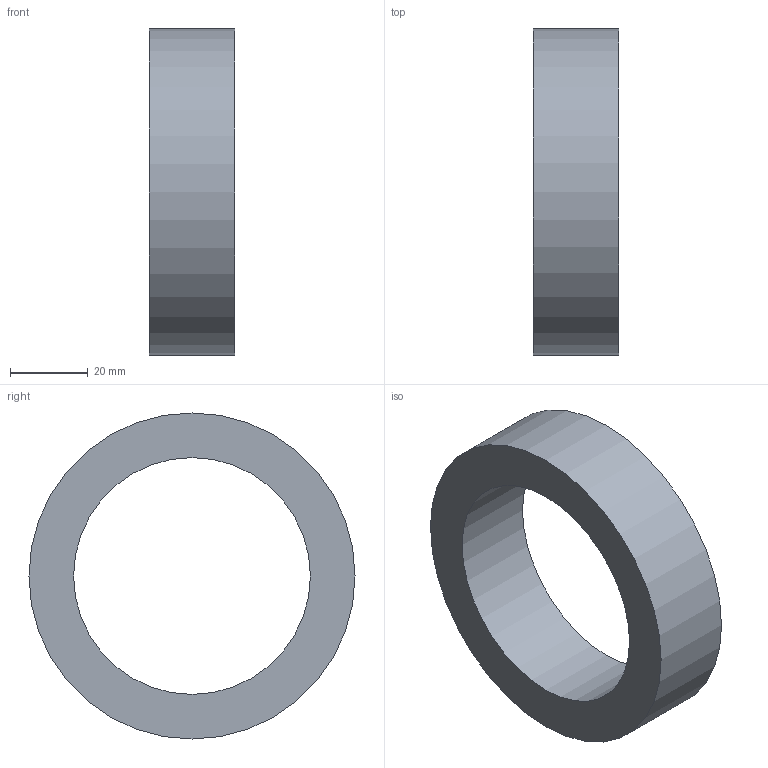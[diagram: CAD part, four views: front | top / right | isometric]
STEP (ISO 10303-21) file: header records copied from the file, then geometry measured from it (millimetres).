
FILE_DESCRIPTION(('Open CASCADE Model'),'2;1');
FILE_NAME('Open CASCADE Shape Model','2026-10-08T06:53:14',('Author'),( 'Open CASCADE'),'Open CASCADE STEP processor 7.8','Open CASCADE 7.8' ,'Unknown');
FILE_SCHEMA(('AUTOMOTIVE_DESIGN { 1 0 10303 214 1 1 1 1 }'));
Length unit declared in the file: millimetre
Products named in the file (1): Open CASCADE STEP translator 7.8 24
Bounding box: 22 x 84 x 84 mm (x, y, z)
Volume: 57624.7 mm3; surface area: 15260.3 mm2
Topology: 1 solids, 1 shells, 4 faces, 6 edges, 4 vertices
Faces by surface type: cylinder 2, plane 2
Full cylindrical faces by diameter (mm): 61 x1, 84 x1
Entity records: 186 total; most frequent: DIRECTION 32, CARTESIAN_POINT 27, ORIENTED_EDGE 12, PCURVE 12, DEFINITIONAL_REPRESENTATION 12, LINE 10, VECTOR 10, AXIS2_PLACEMENT_3D 9
